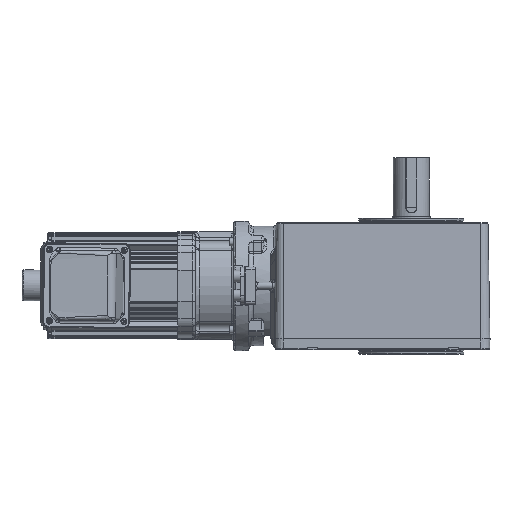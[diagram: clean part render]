
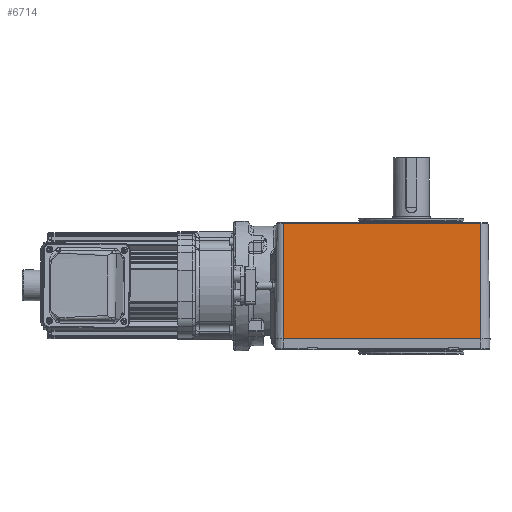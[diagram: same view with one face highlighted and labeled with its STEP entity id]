
A CAD part, top view. The second image highlights one B-rep face of the part: STEP entity #6714.
In plain terms, the highlighted planar face has unit normal (0, 0.018, 1).
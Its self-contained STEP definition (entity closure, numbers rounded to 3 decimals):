
#6714 = ADVANCED_FACE( '', ( #13976 ), #13977, .T. );
#13976 = FACE_OUTER_BOUND( '', #53243, .T. );
#13977 = PLANE( '', #53244 );
#53243 = EDGE_LOOP( '', ( #74600, #74601, #74602, #74603 ) );
#53244 = AXIS2_PLACEMENT_3D( '', #74604, #74605, #74606 );
#74600 = ORIENTED_EDGE( '', *, *, #84011, .F. );
#74601 = ORIENTED_EDGE( '', *, *, #80854, .T. );
#74602 = ORIENTED_EDGE( '', *, *, #83451, .T. );
#74603 = ORIENTED_EDGE( '', *, *, #83464, .T. );
#74604 = CARTESIAN_POINT( '', ( 178.542, -1.5, 89.26 ) );
#74605 = DIRECTION( '', ( 0., 0.017, 1. ) );
#74606 = DIRECTION( '', ( 0., -1., 0.017 ) );
#80854 = EDGE_CURVE( '', #91488, #86626, #91489, .T. );
#83451 = EDGE_CURVE( '', #86626, #94739, #94740, .T. );
#83464 = EDGE_CURVE( '', #94739, #86330, #94755, .T. );
#84011 = EDGE_CURVE( '', #91488, #86330, #95333, .T. );
#86330 = VERTEX_POINT( '', #101665 );
#86626 = VERTEX_POINT( '', #102621 );
#91488 = VERTEX_POINT( '', #118485 );
#91489 = LINE( '', #118486, #118487 );
#94739 = VERTEX_POINT( '', #128055 );
#94740 = LINE( '', #128056, #128057 );
#94755 = LINE( '', #128078, #128079 );
#95333 = LINE( '', #129486, #129487 );
#101665 = CARTESIAN_POINT( '', ( 287.542, -1.5, 89.26 ) );
#102621 = CARTESIAN_POINT( '', ( 69.542, 125.501, 87.043 ) );
#118485 = CARTESIAN_POINT( '', ( 287.542, 125.501, 87.043 ) );
#118486 = CARTESIAN_POINT( '', ( 69.542, 125.501, 87.043 ) );
#118487 = VECTOR( '', #136224, 1000. );
#128055 = CARTESIAN_POINT( '', ( 69.542, -1.5, 89.26 ) );
#128056 = CARTESIAN_POINT( '', ( 69.542, -1.5, 89.26 ) );
#128057 = VECTOR( '', #139174, 1000. );
#128078 = CARTESIAN_POINT( '', ( 69.542, -1.5, 89.26 ) );
#128079 = VECTOR( '', #139187, 1000. );
#129486 = CARTESIAN_POINT( '', ( 287.542, -1.5, 89.26 ) );
#129487 = VECTOR( '', #139565, 1000. );
#136224 = DIRECTION( '', ( -1., 0., 0. ) );
#139174 = DIRECTION( '', ( 0., -1., 0.017 ) );
#139187 = DIRECTION( '', ( 1., 0., 0. ) );
#139565 = DIRECTION( '', ( 0., -1., 0.017 ) );
